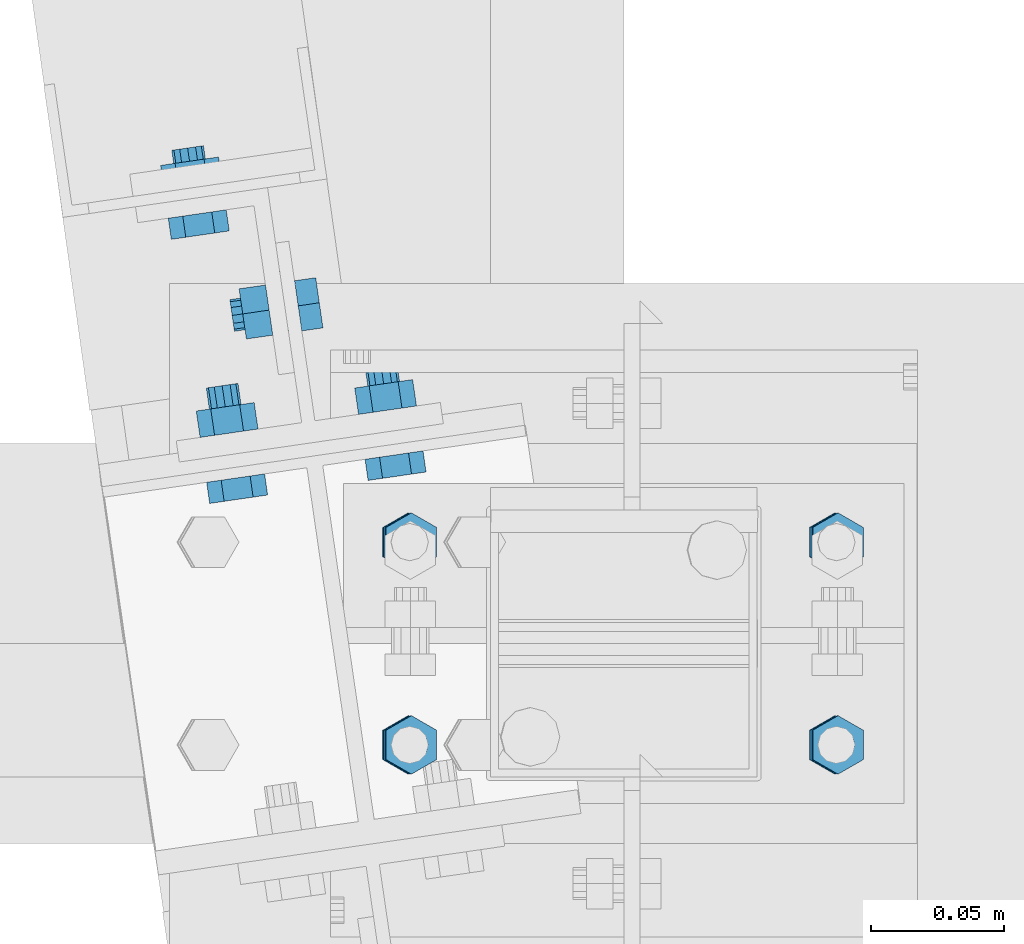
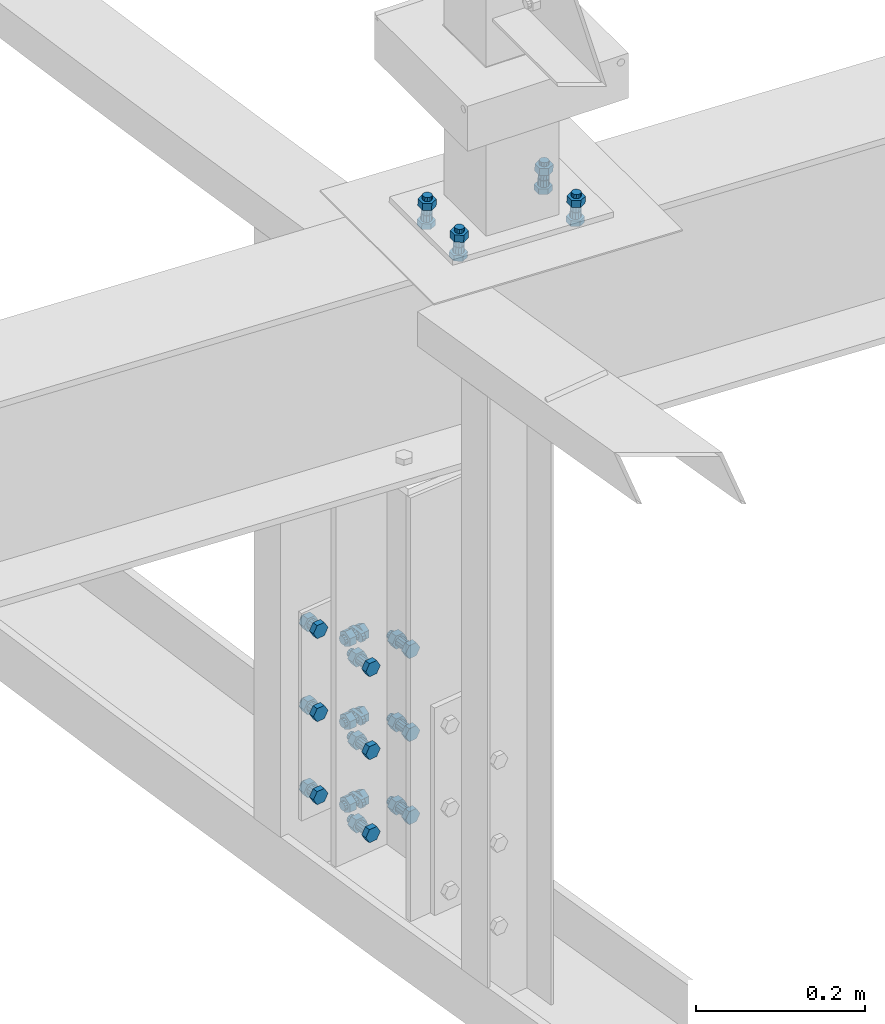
# One storey, part 72 of 3134: 4 mechanical fasteners, 3 elements without a shape of their own.
"""IFC2X3 building model written with IfcOpenShell, lengths in millimetres."""

from ifc_helpers import new_model, si_unit, frame, origin_with_axes, place, context, subcontext, project, spatial, faceted_brep, source, transform, mapped, material, type_object, element, aggregate, save


model = new_model("IFC2X3")

# Units and contexts
model_context = context("Model", 3, precision=1e-05, world=origin_with_axes())
body_context = subcontext(model_context, "Body", "Model", "MODEL_VIEW")
ifc_project = project(units=[si_unit("LENGTHUNIT", "METRE", prefix="MILLI"), si_unit("AREAUNIT", "SQUARE_METRE"), si_unit("VOLUMEUNIT", "CUBIC_METRE"), si_unit("MASSUNIT", "GRAM", prefix="KILO"), si_unit("TIMEUNIT", "SECOND"), si_unit("PLANEANGLEUNIT", "RADIAN"), si_unit("SOLIDANGLEUNIT", "STERADIAN"), si_unit("THERMODYNAMICTEMPERATUREUNIT", "DEGREE_CELSIUS"), si_unit("LUMINOUSINTENSITYUNIT", "LUMEN")], contexts=[model_context])

# Site, building, storey
site_placement = place(None, origin_with_axes())
site = spatial("IfcSite", under=ifc_project, at=site_placement, CompositionType="ELEMENT")
building_placement = place(site_placement, origin_with_axes())
building = spatial("IfcBuilding", under=site, at=building_placement, Name="Undefined", CompositionType="ELEMENT")
storey_placement = place(building_placement, origin_with_axes())
storey = spatial("IfcBuildingStorey", under=building, at=storey_placement, Name="Undefined", CompositionType="ELEMENT", Elevation=0.0)

# Assembly, mechanical fastener
assembly_1_placement = place(storey_placement, origin_with_axes())
assembly_1 = element("IfcElementAssembly", 1, at=assembly_1_placement, inside=storey, Name="HEA160", AssemblyPlace="NOTDEFINED", PredefinedType="RIGID_FRAME")
ifc_material = material(Name="8.8")
mechanical_fastener_type = type_object("IfcMechanicalFastenerType", Name="Bolt assembly")
shared_shape_1 = source(origin_with_axes(), body_context, "Body", "Brep", [
    faceted_brep([(10.9696551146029, -17.0000000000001, 0.0), (5.48482755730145, -17.0000000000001, 9.5), (-5.48482755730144, -17.0000000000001, 9.5), (-10.9696551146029, -17.0000000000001, 1.34339530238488e-15), (-5.48482755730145, -17.0000000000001, -9.5), (5.48482755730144, -17.0000000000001, -9.50000000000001), (5.48482755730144, -9.00000000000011, -9.50000000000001), (-5.48482755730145, -9.00000000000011, -9.5), (-10.9696551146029, -9.00000000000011, 1.34339530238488e-15), (-5.48482755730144, -9.00000000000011, 9.5), (5.48482755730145, -9.00000000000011, 9.5), (10.9696551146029, -9.00000000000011, 0.0), (6.0, -9.00000000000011, 0.0), (5.19615242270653, -9.00000000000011, 3.00000000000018), (2.99999999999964, -9.00000000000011, 5.19615242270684), (-6.21801588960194e-13, -9.00000000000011, 6.0), (-3.00000000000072, -9.00000000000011, 5.19615242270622), (-5.19615242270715, -9.00000000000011, 2.9999999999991), (-6.0, -9.00000000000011, -1.24360317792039e-12), (-5.19615242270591, -9.00000000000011, -3.00000000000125), (-2.99999999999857, -9.00000000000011, -5.19615242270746), (1.85874342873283e-12, -9.00000000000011, -6.0), (3.00000000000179, -9.00000000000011, -5.1961524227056), (5.19615242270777, -9.00000000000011, -2.99999999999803), (5.19615242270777, 26.0, -2.99999999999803), (3.00000000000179, 26.0, -5.1961524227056), (1.85874342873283e-12, 26.0, -6.0), (-2.99999999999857, 26.0, -5.19615242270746), (-5.19615242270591, 26.0, -3.00000000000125), (-6.0, 26.0, -1.24360317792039e-12), (-5.19615242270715, 26.0, 2.9999999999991), (-3.00000000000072, 26.0, 5.19615242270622), (-6.21801588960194e-13, 26.0, 6.0), (2.99999999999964, 26.0, 5.19615242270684), (5.19615242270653, 26.0, 3.00000000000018), (6.0, 26.0, 0.0), (10.9696551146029, 8.0, 0.0), (5.48482755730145, 8.0, 9.5), (-5.48482755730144, 8.0, 9.5), (-10.9696551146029, 8.0, 1.34339530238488e-15), (-5.48482755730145, 8.0, -9.5), (5.48482755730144, 8.0, -9.50000000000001), (5.48482755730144, 18.0, -9.50000000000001), (-5.48482755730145, 18.0, -9.5), (-10.9696551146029, 18.0, 1.34339530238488e-15), (-5.48482755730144, 18.0, 9.5), (5.48482755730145, 18.0, 9.5), (10.9696551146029, 18.0, 0.0)], [[[0, 1, 2, 3, 4, 5]], [[6, 7, 8, 9, 10, 11]], [[0, 11, 10, 1]], [[1, 10, 9, 2]], [[2, 9, 8, 3]], [[3, 8, 7, 4]], [[4, 7, 6, 5]], [[5, 6, 11, 0]], [[12, 13, 14, 15, 16, 17, 18, 19, 20, 21, 22, 23]], [[24, 25, 26, 27, 28, 29, 30, 31, 32, 33, 34, 35]], [[12, 35, 34, 13]], [[13, 34, 33, 14]], [[14, 33, 32, 15]], [[15, 32, 31, 16]], [[16, 31, 30, 17]], [[17, 30, 29, 18]], [[18, 29, 28, 19]], [[19, 28, 27, 20]], [[20, 27, 26, 21]], [[21, 26, 25, 22]], [[22, 25, 24, 23]], [[23, 24, 35, 12]], [[36, 37, 38, 39, 40, 41]], [[42, 43, 44, 45, 46, 47]], [[36, 47, 46, 37]], [[37, 46, 45, 38]], [[38, 45, 44, 39]], [[39, 44, 43, 40]], [[40, 43, 42, 41]], [[41, 42, 47, 36]]]),
    faceted_brep([(7.0, -0.1, 0.0), (6.06217782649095, -0.1, 3.50000000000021), (3.49999999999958, -0.1, 6.06217782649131), (-7.25435187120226e-13, -0.1, 7.0), (-3.50000000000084, -0.1, 6.06217782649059), (-6.06217782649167, -0.1, 3.49999999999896), (-7.0, -0.1, -1.45087037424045e-12), (-6.06217782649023, -0.1, -3.50000000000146), (-3.49999999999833, -0.1, -6.06217782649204), (2.1685340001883e-12, -0.1, -7.0), (3.50000000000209, -0.1, -6.06217782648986), (6.0621778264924, -0.1, -3.4999999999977), (6.0621778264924, 8.0000000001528, -3.4999999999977), (3.50000000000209, 8.0000000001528, -6.06217782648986), (2.1685340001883e-12, 8.0000000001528, -7.0), (-3.49999999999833, 8.0000000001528, -6.06217782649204), (-6.06217782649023, 8.0000000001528, -3.50000000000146), (-7.0, 8.0000000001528, -1.45087037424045e-12), (-6.06217782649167, 8.0000000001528, 3.49999999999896), (-3.50000000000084, 8.0000000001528, 6.06217782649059), (-7.25435187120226e-13, 8.0000000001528, 7.0), (3.49999999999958, 8.0000000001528, 6.06217782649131), (6.06217782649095, 8.0000000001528, 3.50000000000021), (7.0, 8.0000000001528, 0.0), (7.0, -8.90000000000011, 0.0), (6.06217782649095, -8.90000000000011, 3.50000000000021), (3.49999999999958, -8.90000000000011, 6.06217782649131), (-7.25435187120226e-13, -8.90000000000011, 7.0), (-3.50000000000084, -8.90000000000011, 6.06217782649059), (-6.06217782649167, -8.90000000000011, 3.49999999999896), (-7.0, -8.90000000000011, -1.45087037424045e-12), (-6.06217782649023, -8.90000000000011, -3.50000000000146), (-3.49999999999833, -8.90000000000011, -6.06217782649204), (2.1685340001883e-12, -8.90000000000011, -7.0), (3.50000000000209, -8.90000000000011, -6.06217782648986), (6.0621778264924, -8.90000000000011, -3.4999999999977), (6.0621778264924, 0.0999999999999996, -3.4999999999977), (3.50000000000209, 0.0999999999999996, -6.06217782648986), (2.1685340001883e-12, 0.0999999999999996, -7.0), (-3.49999999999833, 0.0999999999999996, -6.06217782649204), (-6.06217782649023, 0.0999999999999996, -3.50000000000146), (-7.0, 0.0999999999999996, -1.45087037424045e-12), (-6.06217782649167, 0.0999999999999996, 3.49999999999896), (-3.50000000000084, 0.0999999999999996, 6.06217782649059), (-7.25435187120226e-13, 0.0999999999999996, 7.0), (3.49999999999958, 0.0999999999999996, 6.06217782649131), (6.06217782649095, 0.0999999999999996, 3.50000000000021), (7.0, 0.0999999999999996, 0.0)], [[[0, 1, 2, 3, 4, 5, 6, 7, 8, 9, 10, 11]], [[12, 13, 14, 15, 16, 17, 18, 19, 20, 21, 22, 23]], [[0, 23, 22, 1]], [[1, 22, 21, 2]], [[2, 21, 20, 3]], [[3, 20, 19, 4]], [[4, 19, 18, 5]], [[5, 18, 17, 6]], [[6, 17, 16, 7]], [[7, 16, 15, 8]], [[8, 15, 14, 9]], [[9, 14, 13, 10]], [[10, 13, 12, 11]], [[11, 12, 23, 0]], [[24, 25, 26, 27, 28, 29, 30, 31, 32, 33, 34, 35]], [[36, 37, 38, 39, 40, 41, 42, 43, 44, 45, 46, 47]], [[24, 47, 46, 25]], [[25, 46, 45, 26]], [[26, 45, 44, 27]], [[27, 44, 43, 28]], [[28, 43, 42, 29]], [[29, 42, 41, 30]], [[30, 41, 40, 31]], [[31, 40, 39, 32]], [[32, 39, 38, 33]], [[33, 38, 37, 34]], [[34, 37, 36, 35]], [[35, 36, 47, 24]]]),
])
mechanical_fastener_1_placement = place(assembly_1_placement, frame((2896.54345958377, 27114.645837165, 3170.0), z_axis=(0.0, 0.0, 1.0), x_axis=(0.989606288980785, 0.143803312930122, 0.0)))
mechanical_fastener_1 = element("IfcMechanicalFastener", 2, at=mechanical_fastener_1_placement, type_object=mechanical_fastener_type, material=ifc_material, Name="Bolt assembly", NominalDiameter=12.0, NominalLength=35.0, context=body_context, shape_type="MappedRepresentation", body=[
    mapped(shared_shape_1, transform((0.0, 0.0, -120.0))),
    mapped(shared_shape_1, transform((60.0000000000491, 0.0, -120.0))),
    mapped(shared_shape_1, transform((0.0, 0.0, 0.0))),
    mapped(shared_shape_1, transform((59.9999999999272, 0.0, 5.40239852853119e-10))),
    mapped(shared_shape_1, transform((0.0, 0.0, 120.0))),
    mapped(shared_shape_1, transform((60.0000000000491, 0.0, 120.0))),
])
aggregate(assembly_1, [mechanical_fastener_1])

# Assembly, mechanical fasteners
assembly_2_placement = place(storey_placement, origin_with_axes())
assembly_2 = element("IfcElementAssembly", 3, at=assembly_2_placement, inside=storey, AssemblyPlace="NOTDEFINED", PredefinedType="RIGID_FRAME")
shared_shape_2 = source(origin_with_axes(), body_context, "Body", "Brep", [
    faceted_brep([(10.9696551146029, -10.499999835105, 0.0), (5.48482755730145, -10.499999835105, 9.5), (-5.48482755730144, -10.499999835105, 9.5), (-10.9696551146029, -10.499999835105, 1.34339530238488e-15), (-5.48482755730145, -10.499999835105, -9.5), (5.48482755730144, -10.499999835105, -9.50000000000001), (5.48482755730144, -2.49999983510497, -9.50000000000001), (-5.48482755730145, -2.49999983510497, -9.5), (-10.9696551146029, -2.49999983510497, 1.34339530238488e-15), (-5.48482755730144, -2.49999983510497, 9.5), (5.48482755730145, -2.49999983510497, 9.5), (10.9696551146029, -2.49999983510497, 0.0), (6.0, -2.49999983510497, 0.0), (5.19615242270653, -2.49999983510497, 3.00000000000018), (2.99999999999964, -2.49999983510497, 5.19615242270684), (-6.21801588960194e-13, -2.49999983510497, 6.0), (-3.00000000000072, -2.49999983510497, 5.19615242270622), (-5.19615242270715, -2.49999983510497, 2.9999999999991), (-6.0, -2.49999983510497, -1.24360317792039e-12), (-5.19615242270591, -2.49999983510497, -3.00000000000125), (-2.99999999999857, -2.49999983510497, -5.19615242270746), (1.85874342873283e-12, -2.49999983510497, -6.0), (3.00000000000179, -2.49999983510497, -5.1961524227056), (5.19615242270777, -2.49999983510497, -2.99999999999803), (5.19615242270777, 22.5, -2.99999999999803), (3.00000000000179, 22.5, -5.1961524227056), (1.85874342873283e-12, 22.5, -6.0), (-2.99999999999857, 22.5, -5.19615242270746), (-5.19615242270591, 22.5, -3.00000000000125), (-6.0, 22.5, -1.24360317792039e-12), (-5.19615242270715, 22.5, 2.9999999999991), (-3.00000000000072, 22.5, 5.19615242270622), (-6.21801588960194e-13, 22.5, 6.0), (2.99999999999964, 22.5, 5.19615242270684), (5.19615242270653, 22.5, 3.00000000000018), (6.0, 22.5, 0.0), (10.9696551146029, 8.50153105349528, 0.0), (5.48482755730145, 8.50153105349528, 9.5), (-5.48482755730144, 8.50153105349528, 9.5), (-10.9696551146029, 8.50153105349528, 1.34339530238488e-15), (-5.48482755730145, 8.50153105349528, -9.5), (5.48482755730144, 8.50153105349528, -9.50000000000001), (5.48482755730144, 18.5015310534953, -9.50000000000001), (-5.48482755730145, 18.5015310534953, -9.5), (-10.9696551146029, 18.5015310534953, 1.34339530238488e-15), (-5.48482755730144, 18.5015310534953, 9.5), (5.48482755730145, 18.5015310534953, 9.5), (10.9696551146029, 18.5015310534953, 0.0)], [[[0, 1, 2, 3, 4, 5]], [[6, 7, 8, 9, 10, 11]], [[0, 11, 10, 1]], [[1, 10, 9, 2]], [[2, 9, 8, 3]], [[3, 8, 7, 4]], [[4, 7, 6, 5]], [[5, 6, 11, 0]], [[12, 13, 14, 15, 16, 17, 18, 19, 20, 21, 22, 23]], [[24, 25, 26, 27, 28, 29, 30, 31, 32, 33, 34, 35]], [[12, 35, 34, 13]], [[13, 34, 33, 14]], [[14, 33, 32, 15]], [[15, 32, 31, 16]], [[16, 31, 30, 17]], [[17, 30, 29, 18]], [[18, 29, 28, 19]], [[19, 28, 27, 20]], [[20, 27, 26, 21]], [[21, 26, 25, 22]], [[22, 25, 24, 23]], [[23, 24, 35, 12]], [[36, 37, 38, 39, 40, 41]], [[42, 43, 44, 45, 46, 47]], [[36, 47, 46, 37]], [[37, 46, 45, 38]], [[38, 45, 44, 39]], [[39, 44, 43, 40]], [[40, 43, 42, 41]], [[41, 42, 47, 36]]]),
    faceted_brep([(7.0, -2.39999983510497, 7.0), (6.46715672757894, -2.39999983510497, 9.6787840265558), (4.94974746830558, -2.39999983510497, 11.9497474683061), (-7.25435187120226e-13, -2.39999983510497, 14.0), (-3.50000000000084, -2.39999983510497, 13.0621778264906), (-6.06217782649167, -2.39999983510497, 10.499999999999), (-7.0, -2.39999983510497, 6.99999999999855), (-7.0, -2.39999983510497, -7.00000000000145), (-6.06217782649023, -2.39999983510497, -10.5000000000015), (-3.49999999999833, -2.39999983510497, -13.062177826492), (2.1685340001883e-12, -2.39999983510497, -14.0), (3.50000000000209, -2.39999983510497, -13.0621778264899), (6.0621778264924, -2.39999983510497, -10.4999999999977), (7.0, -2.39999983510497, -6.9999999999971), (7.0, 2.60000016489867, -6.9999999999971), (6.0621778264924, 2.60000016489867, -10.4999999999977), (3.50000000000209, 2.60000016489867, -13.0621778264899), (2.1685340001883e-12, 2.60000016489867, -14.0), (-3.49999999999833, 2.60000016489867, -13.062177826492), (-6.06217782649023, 2.60000016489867, -10.5000000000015), (-7.0, 2.60000016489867, -7.00000000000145), (-7.0, 2.60000016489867, 6.99999999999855), (-6.06217782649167, 2.60000016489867, 10.499999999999), (-3.50000000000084, 2.60000016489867, 13.0621778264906), (-7.25435187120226e-13, 2.60000016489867, 14.0), (2.67878402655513, 2.60000016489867, 13.4671567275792), (4.94974746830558, 2.60000016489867, 11.9497474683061), (6.46715672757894, 2.60000016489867, 9.6787840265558), (7.0, 2.60000016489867, 7.0), (2.67878402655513, -2.39999983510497, 13.4671567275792), (7.0, 2.4015310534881, 0.0), (6.06217782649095, 2.4015310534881, 3.50000000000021), (3.49999999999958, 2.4015310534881, 6.06217782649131), (-7.25435187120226e-13, 2.4015310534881, 7.0), (-3.50000000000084, 2.4015310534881, 6.06217782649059), (-6.06217782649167, 2.4015310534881, 3.49999999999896), (-7.0, 2.4015310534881, -1.45087037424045e-12), (-6.06217782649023, 2.4015310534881, -3.50000000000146), (-3.49999999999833, 2.4015310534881, -6.06217782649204), (2.1685340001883e-12, 2.4015310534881, -7.0), (3.50000000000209, 2.4015310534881, -6.06217782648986), (6.0621778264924, 2.4015310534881, -3.4999999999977), (6.0621778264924, 8.50153105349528, -3.4999999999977), (3.50000000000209, 8.50153105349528, -6.06217782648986), (2.1685340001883e-12, 8.50153105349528, -7.0), (-3.49999999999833, 8.50153105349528, -6.06217782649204), (-6.06217782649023, 8.50153105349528, -3.50000000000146), (-7.0, 8.50153105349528, -1.45087037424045e-12), (-6.06217782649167, 8.50153105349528, 3.49999999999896), (-3.50000000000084, 8.50153105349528, 6.06217782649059), (-7.25435187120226e-13, 8.50153105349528, 7.0), (3.49999999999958, 8.50153105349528, 6.06217782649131), (6.06217782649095, 8.50153105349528, 3.50000000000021), (7.0, 8.50153105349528, 0.0)], [[[0, 1, 2, 3, 4, 5, 6, 7, 8, 9, 10, 11, 12, 13]], [[14, 15, 16, 17, 18, 19, 20, 21, 22, 23, 24, 25, 26, 27, 28]], [[0, 28, 27, 1]], [[1, 27, 26, 2]], [[2, 26, 25, 29]], [[29, 25, 24, 3]], [[3, 24, 23, 4]], [[4, 23, 22, 5]], [[5, 22, 21, 6]], [[6, 21, 20, 7]], [[7, 20, 19, 8]], [[8, 19, 18, 9]], [[9, 18, 17, 10]], [[10, 17, 16, 11]], [[11, 16, 15, 12]], [[12, 15, 14, 13]], [[13, 14, 28, 0]], [[30, 31, 32, 33, 34, 35, 36, 37, 38, 39, 40, 41]], [[42, 43, 44, 45, 46, 47, 48, 49, 50, 51, 52, 53]], [[30, 53, 52, 31]], [[31, 52, 51, 32]], [[32, 51, 50, 33]], [[33, 50, 49, 34]], [[34, 49, 48, 35]], [[35, 48, 47, 36]], [[36, 47, 46, 37]], [[37, 46, 45, 38]], [[38, 45, 44, 39]], [[39, 44, 43, 40]], [[40, 43, 42, 41]], [[41, 42, 53, 30]]]),
])
mechanical_fastener_2_placement = place(assembly_2_placement, frame((2918.82520657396, 27169.9285734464, 3290.00065963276), z_axis=(-0.143803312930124, 0.989606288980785, 0.0), x_axis=(0.0, 0.0, -1.0)))
mechanical_fastener_2 = element("IfcMechanicalFastener", 4, at=mechanical_fastener_2_placement, type_object=mechanical_fastener_type, material=ifc_material, Name="Bolt assembly", NominalDiameter=12.0, NominalLength=25.0, context=body_context, shape_type="MappedRepresentation", body=[
    mapped(shared_shape_2, transform((0.0, 0.0, 0.0))),
    mapped(shared_shape_2, transform((120.0, 0.0, 0.0))),
    mapped(shared_shape_2, transform((240.0, 0.0, 0.0))),
])
shared_shape_3 = source(origin_with_axes(), body_context, "Body", "Brep", [
    faceted_brep([(10.9696551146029, -12.9921290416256, 0.0), (5.48482755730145, -12.9921290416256, 9.5), (-5.48482755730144, -12.9921290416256, 9.5), (-10.9696551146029, -12.9921290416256, 1.34339530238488e-15), (-5.48482755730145, -12.9921290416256, -9.5), (5.48482755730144, -12.9921290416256, -9.50000000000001), (5.48482755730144, -4.99212904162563, -9.50000000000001), (-5.48482755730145, -4.99212904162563, -9.5), (-10.9696551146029, -4.99212904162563, 1.34339530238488e-15), (-5.48482755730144, -4.99212904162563, 9.5), (5.48482755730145, -4.99212904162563, 9.5), (10.9696551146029, -4.99212904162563, 0.0), (6.0, -4.99212904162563, 0.0), (5.19615242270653, -4.99212904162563, 3.00000000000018), (2.99999999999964, -4.99212904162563, 5.19615242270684), (-6.21801588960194e-13, -4.99212904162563, 6.0), (-3.00000000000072, -4.99212904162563, 5.19615242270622), (-5.19615242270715, -4.99212904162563, 2.9999999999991), (-6.0, -4.99212904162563, -1.24360317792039e-12), (-5.19615242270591, -4.99212904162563, -3.00000000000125), (-2.99999999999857, -4.99212904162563, -5.19615242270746), (1.85874342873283e-12, -4.99212904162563, -6.0), (3.00000000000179, -4.99212904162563, -5.1961524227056), (5.19615242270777, -4.99212904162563, -2.99999999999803), (5.19615242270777, 20.0078709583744, -2.99999999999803), (3.00000000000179, 20.0078709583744, -5.1961524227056), (1.85874342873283e-12, 20.0078709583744, -6.0), (-2.99999999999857, 20.0078709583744, -5.19615242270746), (-5.19615242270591, 20.0078709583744, -3.00000000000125), (-6.0, 20.0078709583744, -1.24360317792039e-12), (-5.19615242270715, 20.0078709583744, 2.9999999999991), (-3.00000000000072, 20.0078709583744, 5.19615242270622), (-6.21801588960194e-13, 20.0078709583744, 6.0), (2.99999999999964, 20.0078709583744, 5.19615242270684), (5.19615242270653, 20.0078709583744, 3.00000000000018), (6.0, 20.0078709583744, 0.0), (10.9696551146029, 4.99983928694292, 0.0), (5.48482755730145, 4.99983928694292, 9.5), (-5.48482755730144, 4.99983928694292, 9.5), (-10.9696551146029, 4.99983928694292, 1.34339530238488e-15), (-5.48482755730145, 4.99983928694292, -9.5), (5.48482755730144, 4.99983928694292, -9.50000000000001), (5.48482755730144, 14.9998392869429, -9.50000000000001), (-5.48482755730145, 14.9998392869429, -9.5), (-10.9696551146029, 14.9998392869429, 1.34339530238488e-15), (-5.48482755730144, 14.9998392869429, 9.5), (5.48482755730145, 14.9998392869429, 9.5), (10.9696551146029, 14.9998392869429, 0.0)], [[[0, 1, 2, 3, 4, 5]], [[6, 7, 8, 9, 10, 11]], [[0, 11, 10, 1]], [[1, 10, 9, 2]], [[2, 9, 8, 3]], [[3, 8, 7, 4]], [[4, 7, 6, 5]], [[5, 6, 11, 0]], [[12, 13, 14, 15, 16, 17, 18, 19, 20, 21, 22, 23]], [[24, 25, 26, 27, 28, 29, 30, 31, 32, 33, 34, 35]], [[12, 35, 34, 13]], [[13, 34, 33, 14]], [[14, 33, 32, 15]], [[15, 32, 31, 16]], [[16, 31, 30, 17]], [[17, 30, 29, 18]], [[18, 29, 28, 19]], [[19, 28, 27, 20]], [[20, 27, 26, 21]], [[21, 26, 25, 22]], [[22, 25, 24, 23]], [[23, 24, 35, 12]], [[36, 37, 38, 39, 40, 41]], [[42, 43, 44, 45, 46, 47]], [[36, 47, 46, 37]], [[37, 46, 45, 38]], [[38, 45, 44, 39]], [[39, 44, 43, 40]], [[40, 43, 42, 41]], [[41, 42, 47, 36]]]),
    faceted_brep([(7.0, 0.89983928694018, 0.0), (6.06217782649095, 0.89983928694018, 3.50000000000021), (3.49999999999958, 0.89983928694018, 6.06217782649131), (-7.25435187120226e-13, 0.89983928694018, 7.0), (-3.50000000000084, 0.89983928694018, 6.06217782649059), (-6.06217782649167, 0.89983928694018, 3.49999999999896), (-7.0, 0.89983928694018, -1.45087037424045e-12), (-6.06217782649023, 0.89983928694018, -3.50000000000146), (-3.49999999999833, 0.89983928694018, -6.06217782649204), (2.1685340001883e-12, 0.89983928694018, -7.0), (3.50000000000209, 0.89983928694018, -6.06217782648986), (6.0621778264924, 0.89983928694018, -3.4999999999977), (6.0621778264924, 4.99983928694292, -3.4999999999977), (3.50000000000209, 4.99983928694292, -6.06217782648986), (2.1685340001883e-12, 4.99983928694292, -7.0), (-3.49999999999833, 4.99983928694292, -6.06217782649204), (-6.06217782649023, 4.99983928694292, -3.50000000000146), (-7.0, 4.99983928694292, -1.45087037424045e-12), (-6.06217782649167, 4.99983928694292, 3.49999999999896), (-3.50000000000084, 4.99983928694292, 6.06217782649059), (-7.25435187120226e-13, 4.99983928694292, 7.0), (3.49999999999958, 4.99983928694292, 6.06217782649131), (6.06217782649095, 4.99983928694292, 3.50000000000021), (7.0, 4.99983928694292, 0.0), (7.0, -4.89212904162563, 0.0), (6.06217782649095, -4.89212904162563, 3.50000000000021), (3.49999999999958, -4.89212904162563, 6.06217782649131), (-7.25435187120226e-13, -4.89212904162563, 7.0), (-3.50000000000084, -4.89212904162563, 6.06217782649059), (-6.06217782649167, -4.89212904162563, 3.49999999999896), (-7.0, -4.89212904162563, -1.45087037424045e-12), (-6.06217782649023, -4.89212904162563, -3.50000000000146), (-3.49999999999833, -4.89212904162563, -6.06217782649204), (2.1685340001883e-12, -4.89212904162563, -7.0), (3.50000000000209, -4.89212904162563, -6.06217782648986), (6.0621778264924, -4.89212904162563, -3.4999999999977), (6.0621778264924, 1.10787095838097, -3.4999999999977), (3.50000000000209, 1.10787095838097, -6.06217782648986), (2.1685340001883e-12, 1.10787095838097, -7.0), (-3.49999999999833, 1.10787095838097, -6.06217782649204), (-6.06217782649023, 1.10787095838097, -3.50000000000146), (-7.0, 1.10787095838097, -1.45087037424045e-12), (-6.06217782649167, 1.10787095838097, 3.49999999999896), (-3.50000000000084, 1.10787095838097, 6.06217782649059), (-7.25435187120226e-13, 1.10787095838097, 7.0), (3.49999999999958, 1.10787095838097, 6.06217782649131), (6.06217782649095, 1.10787095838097, 3.50000000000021), (7.0, 1.10787095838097, 0.0)], [[[0, 1, 2, 3, 4, 5, 6, 7, 8, 9, 10, 11]], [[12, 13, 14, 15, 16, 17, 18, 19, 20, 21, 22, 23]], [[0, 23, 22, 1]], [[1, 22, 21, 2]], [[2, 21, 20, 3]], [[3, 20, 19, 4]], [[4, 19, 18, 5]], [[5, 18, 17, 6]], [[6, 17, 16, 7]], [[7, 16, 15, 8]], [[8, 15, 14, 9]], [[9, 14, 13, 10]], [[10, 13, 12, 11]], [[11, 12, 23, 0]], [[24, 25, 26, 27, 28, 29, 30, 31, 32, 33, 34, 35]], [[36, 37, 38, 39, 40, 41, 42, 43, 44, 45, 46, 47]], [[24, 47, 46, 25]], [[25, 46, 45, 26]], [[26, 45, 44, 27]], [[27, 44, 43, 28]], [[28, 43, 42, 29]], [[29, 42, 41, 30]], [[30, 41, 40, 31]], [[31, 40, 39, 32]], [[32, 39, 38, 33]], [[33, 38, 37, 34]], [[34, 37, 36, 35]], [[35, 36, 47, 24]]]),
])
mechanical_fastener_3_placement = place(assembly_2_placement, frame((2882.73833260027, 27209.648039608, 3170.0), z_axis=(0.0, 0.0, 1.0), x_axis=(0.989606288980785, 0.143803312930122, 0.0)))
mechanical_fastener_3 = element("IfcMechanicalFastener", 5, at=mechanical_fastener_3_placement, type_object=mechanical_fastener_type, material=ifc_material, Name="Bolt assembly", NominalDiameter=12.0, NominalLength=25.0, context=body_context, shape_type="MappedRepresentation", body=[
    mapped(shared_shape_3, transform((0.0, 0.0, -120.0))),
    mapped(shared_shape_3, transform((0.0, 0.0, 0.0))),
    mapped(shared_shape_3, transform((0.0, 0.0, 120.0))),
])
aggregate(assembly_2, [mechanical_fastener_2, mechanical_fastener_3])

# Assembly, mechanical fastener
assembly_3_placement = place(storey_placement, origin_with_axes())
assembly_3 = element("IfcElementAssembly", 6, at=assembly_3_placement, inside=storey, AssemblyPlace="NOTDEFINED", PredefinedType="RIGID_FRAME")
shared_shape_4 = source(origin_with_axes(), body_context, "Body", "Brep", [
    faceted_brep([(10.9696551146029, -4.1972538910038, 0.0), (5.48482755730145, -4.1972538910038, 9.5), (-5.48482755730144, -4.1972538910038, 9.5), (-10.9696551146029, -4.1972538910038, 1.34339530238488e-15), (-5.48482755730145, -4.1972538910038, -9.5), (5.48482755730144, -4.1972538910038, -9.50000000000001), (5.48482755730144, 3.8027461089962, -9.50000000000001), (-5.48482755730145, 3.8027461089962, -9.5), (-10.9696551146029, 3.8027461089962, 1.34339530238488e-15), (-5.48482755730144, 3.8027461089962, 9.5), (5.48482755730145, 3.8027461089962, 9.5), (10.9696551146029, 3.8027461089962, 0.0), (6.0, 3.8027461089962, 0.0), (5.19615242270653, 3.8027461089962, 3.00000000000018), (2.99999999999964, 3.8027461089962, 5.19615242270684), (-6.21801588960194e-13, 3.8027461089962, 6.0), (-3.00000000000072, 3.8027461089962, 5.19615242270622), (-5.19615242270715, 3.8027461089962, 2.9999999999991), (-6.0, 3.8027461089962, -1.24360317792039e-12), (-5.19615242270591, 3.8027461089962, -3.00000000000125), (-2.99999999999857, 3.8027461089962, -5.19615242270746), (1.85874342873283e-12, 3.8027461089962, -6.0), (3.00000000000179, 3.8027461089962, -5.1961524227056), (5.19615242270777, 3.8027461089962, -2.99999999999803), (5.19615242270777, 38.8027461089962, -2.99999999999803), (3.00000000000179, 38.8027461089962, -5.1961524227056), (1.85874342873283e-12, 38.8027461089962, -6.0), (-2.99999999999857, 38.8027461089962, -5.19615242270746), (-5.19615242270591, 38.8027461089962, -3.00000000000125), (-6.0, 38.8027461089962, -1.24360317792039e-12), (-5.19615242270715, 38.8027461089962, 2.9999999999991), (-3.00000000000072, 38.8027461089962, 5.19615242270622), (-6.21801588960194e-13, 38.8027461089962, 6.0), (2.99999999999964, 38.8027461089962, 5.19615242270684), (5.19615242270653, 38.8027461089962, 3.00000000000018), (6.0, 38.8027461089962, 0.0), (10.9696551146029, 23.0139082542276, 0.0), (5.48482755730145, 23.0139082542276, 9.5), (-5.48482755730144, 23.0139082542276, 9.5), (-10.9696551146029, 23.0139082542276, 1.34339530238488e-15), (-5.48482755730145, 23.0139082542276, -9.5), (5.48482755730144, 23.0139082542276, -9.50000000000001), (5.48482755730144, 33.0139082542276, -9.50000000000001), (-5.48482755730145, 33.0139082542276, -9.5), (-10.9696551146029, 33.0139082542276, 1.34339530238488e-15), (-5.48482755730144, 33.0139082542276, 9.5), (5.48482755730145, 33.0139082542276, 9.5), (10.9696551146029, 33.0139082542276, 0.0)], [[[0, 1, 2, 3, 4, 5]], [[6, 7, 8, 9, 10, 11]], [[0, 11, 10, 1]], [[1, 10, 9, 2]], [[2, 9, 8, 3]], [[3, 8, 7, 4]], [[4, 7, 6, 5]], [[5, 6, 11, 0]], [[12, 13, 14, 15, 16, 17, 18, 19, 20, 21, 22, 23]], [[24, 25, 26, 27, 28, 29, 30, 31, 32, 33, 34, 35]], [[12, 35, 34, 13]], [[13, 34, 33, 14]], [[14, 33, 32, 15]], [[15, 32, 31, 16]], [[16, 31, 30, 17]], [[17, 30, 29, 18]], [[18, 29, 28, 19]], [[19, 28, 27, 20]], [[20, 27, 26, 21]], [[21, 26, 25, 22]], [[22, 25, 24, 23]], [[23, 24, 35, 12]], [[36, 37, 38, 39, 40, 41]], [[42, 43, 44, 45, 46, 47]], [[36, 47, 46, 37]], [[37, 46, 45, 38]], [[38, 45, 44, 39]], [[39, 44, 43, 40]], [[40, 43, 42, 41]], [[41, 42, 47, 36]]]),
    faceted_brep([(7.0, 3.9027461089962, 0.0), (6.06217782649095, 3.9027461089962, 3.50000000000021), (3.49999999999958, 3.9027461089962, 6.06217782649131), (-7.25435187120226e-13, 3.9027461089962, 7.0), (-3.50000000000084, 3.9027461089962, 6.06217782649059), (-6.06217782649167, 3.9027461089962, 3.49999999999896), (-7.0, 3.9027461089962, -1.45087037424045e-12), (-6.06217782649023, 3.9027461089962, -3.50000000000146), (-3.49999999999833, 3.9027461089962, -6.06217782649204), (2.1685340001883e-12, 3.9027461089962, -7.0), (3.50000000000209, 3.9027461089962, -6.06217782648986), (6.0621778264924, 3.9027461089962, -3.4999999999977), (6.0621778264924, 13.1027459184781, -3.4999999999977), (3.50000000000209, 13.1027459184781, -6.06217782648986), (2.1685340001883e-12, 13.1027459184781, -7.0), (-3.49999999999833, 13.1027459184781, -6.06217782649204), (-6.06217782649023, 13.1027459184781, -3.50000000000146), (-7.0, 13.1027459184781, -1.45087037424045e-12), (-6.06217782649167, 13.1027459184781, 3.49999999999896), (-3.50000000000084, 13.1027459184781, 6.06217782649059), (-7.25435187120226e-13, 13.1027459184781, 7.0), (3.49999999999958, 13.1027459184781, 6.06217782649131), (6.06217782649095, 13.1027459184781, 3.50000000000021), (7.0, 13.1027459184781, 0.0), (7.0, 14.9139082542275, 0.0), (6.06217782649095, 14.9139082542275, 3.50000000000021), (3.49999999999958, 14.9139082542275, 6.06217782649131), (-7.25435187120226e-13, 14.9139082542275, 7.0), (-3.50000000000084, 14.9139082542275, 6.06217782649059), (-6.06217782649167, 14.9139082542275, 3.49999999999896), (-7.0, 14.9139082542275, -1.45087037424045e-12), (-6.06217782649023, 14.9139082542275, -3.50000000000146), (-3.49999999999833, 14.9139082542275, -6.06217782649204), (2.1685340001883e-12, 14.9139082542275, -7.0), (3.50000000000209, 14.9139082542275, -6.06217782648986), (6.0621778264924, 14.9139082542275, -3.4999999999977), (6.0621778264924, 23.0139082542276, -3.4999999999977), (3.50000000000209, 23.0139082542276, -6.06217782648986), (2.1685340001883e-12, 23.0139082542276, -7.0), (-3.49999999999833, 23.0139082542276, -6.06217782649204), (-6.06217782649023, 23.0139082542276, -3.50000000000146), (-7.0, 23.0139082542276, -1.45087037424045e-12), (-6.06217782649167, 23.0139082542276, 3.49999999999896), (-3.50000000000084, 23.0139082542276, 6.06217782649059), (-7.25435187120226e-13, 23.0139082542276, 7.0), (3.49999999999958, 23.0139082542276, 6.06217782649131), (6.06217782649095, 23.0139082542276, 3.50000000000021), (7.0, 23.0139082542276, 0.0)], [[[0, 1, 2, 3, 4, 5, 6, 7, 8, 9, 10, 11]], [[12, 13, 14, 15, 16, 17, 18, 19, 20, 21, 22, 23]], [[0, 23, 22, 1]], [[1, 22, 21, 2]], [[2, 21, 20, 3]], [[3, 20, 19, 4]], [[4, 19, 18, 5]], [[5, 18, 17, 6]], [[6, 17, 16, 7]], [[7, 16, 15, 8]], [[8, 15, 14, 9]], [[9, 14, 13, 10]], [[10, 13, 12, 11]], [[11, 12, 23, 0]], [[24, 25, 26, 27, 28, 29, 30, 31, 32, 33, 34, 35]], [[36, 37, 38, 39, 40, 41, 42, 43, 44, 45, 46, 47]], [[24, 47, 46, 25]], [[25, 46, 45, 26]], [[26, 45, 44, 27]], [[27, 44, 43, 28]], [[28, 43, 42, 29]], [[29, 42, 41, 30]], [[30, 41, 40, 31]], [[31, 40, 39, 32]], [[32, 39, 38, 33]], [[33, 38, 37, 34]], [[34, 37, 36, 35]], [[35, 36, 47, 24]]]),
])
mechanical_fastener_4_placement = place(assembly_3_placement, frame((3042.5231765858, 27081.7499999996, 3920.50000668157), z_axis=(-0.999387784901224, 0.0, 0.0349865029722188), x_axis=(0.0, -1.0, 0.0)))
mechanical_fastener_4 = element("IfcMechanicalFastener", 7, at=mechanical_fastener_4_placement, type_object=mechanical_fastener_type, material=ifc_material, Name="Bolt assembly", NominalDiameter=12.0, NominalLength=35.0, context=body_context, shape_type="MappedRepresentation", body=[
    mapped(shared_shape_4, transform((0.0, -5.32963895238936e-10, -79.9999999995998))),
    mapped(shared_shape_4, transform((76.0, -5.32963895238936e-10, -79.9999999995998))),
    mapped(shared_shape_4, transform((0.0, 5.3114490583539e-10, 79.9999999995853))),
    mapped(shared_shape_4, transform((76.0, 5.3114490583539e-10, 79.9999999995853))),
])
aggregate(assembly_3, [mechanical_fastener_4])

save(model, "model.ifc")
